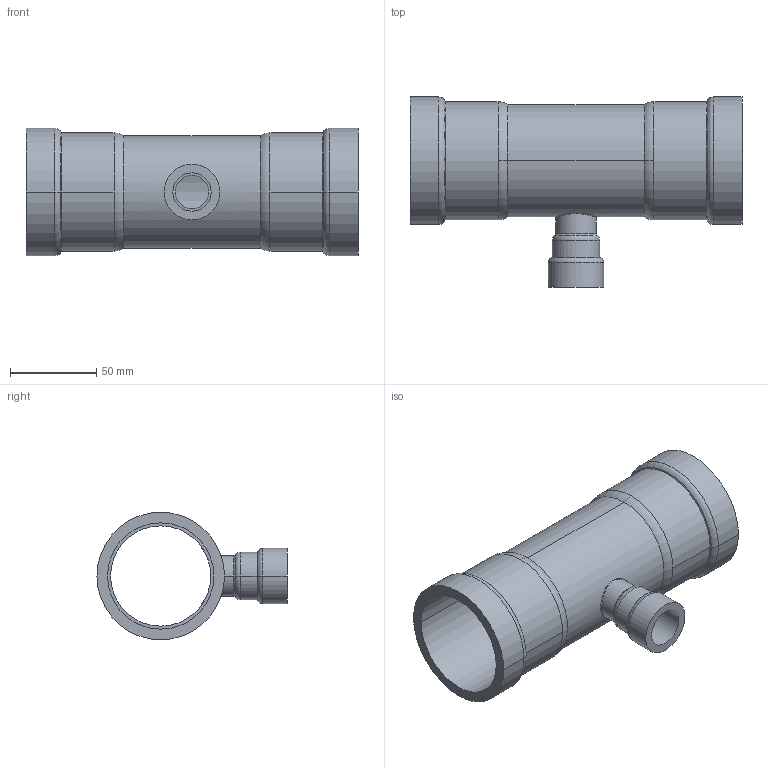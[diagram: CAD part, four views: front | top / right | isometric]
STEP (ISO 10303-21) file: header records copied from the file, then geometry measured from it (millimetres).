
FILE_DESCRIPTION(('Creo Elements/Direct Modeling STEP Export'),'2;1');
FILE_NAME('C9415_2_1-2_2.stp','2020-07-15T10:19:32',(''),(''),'PTC Creo Elements/Direct Modeling STEP processor for AP214 (Solid Model)','PTC Creo Elements/Direct Modeling 19.0C 15-Aug-2015 (C) Parametric Technology GmbH','');
FILE_SCHEMA(('AUTOMOTIVE_DESIGN { 1 0 10303 214 1 1 1 1 }'));
Length unit declared in the file: millimetre
Products named in the file (2): 9415_2_1-2_2
Assembly tree (1 placements, depth 2):
  9415_2_1-2_2
    9415_2_1-2_2
Bounding box: 192.02 x 109.98 x 73.8 mm (x, y, z)
Volume: 166241.3 mm3; surface area: 87633.5 mm2
Topology: 1 solids, 1 shells, 56 faces, 126 edges, 76 vertices
Faces by surface type: cylinder 26, torus 12, cone 8, plane 6, bspline 4
Entity records: 4367 total; most frequent: CARTESIAN_POINT 3204, ORIENTED_EDGE 252, DIRECTION 222, EDGE_CURVE 126, AXIS2_PLACEMENT_3D 94, VERTEX_POINT 76, EDGE_LOOP 64, FACE_OUTER_BOUND 56
